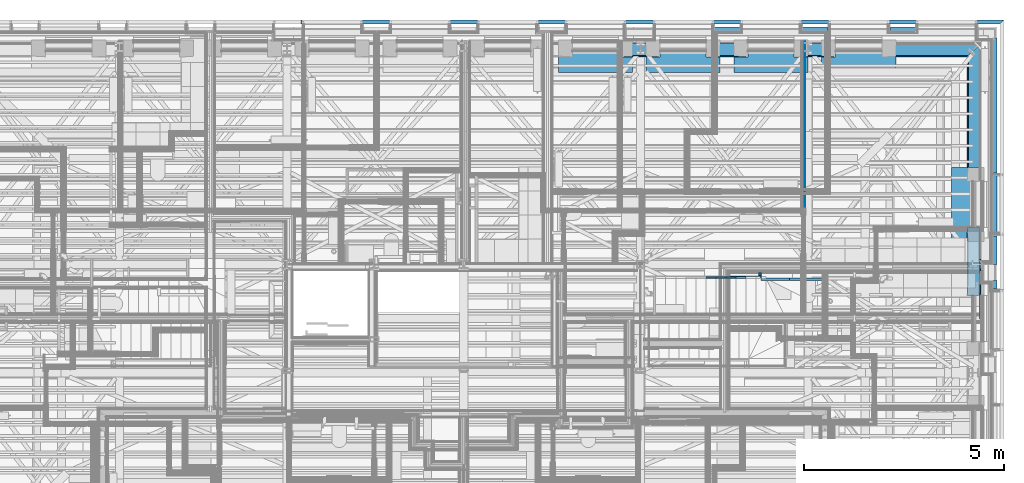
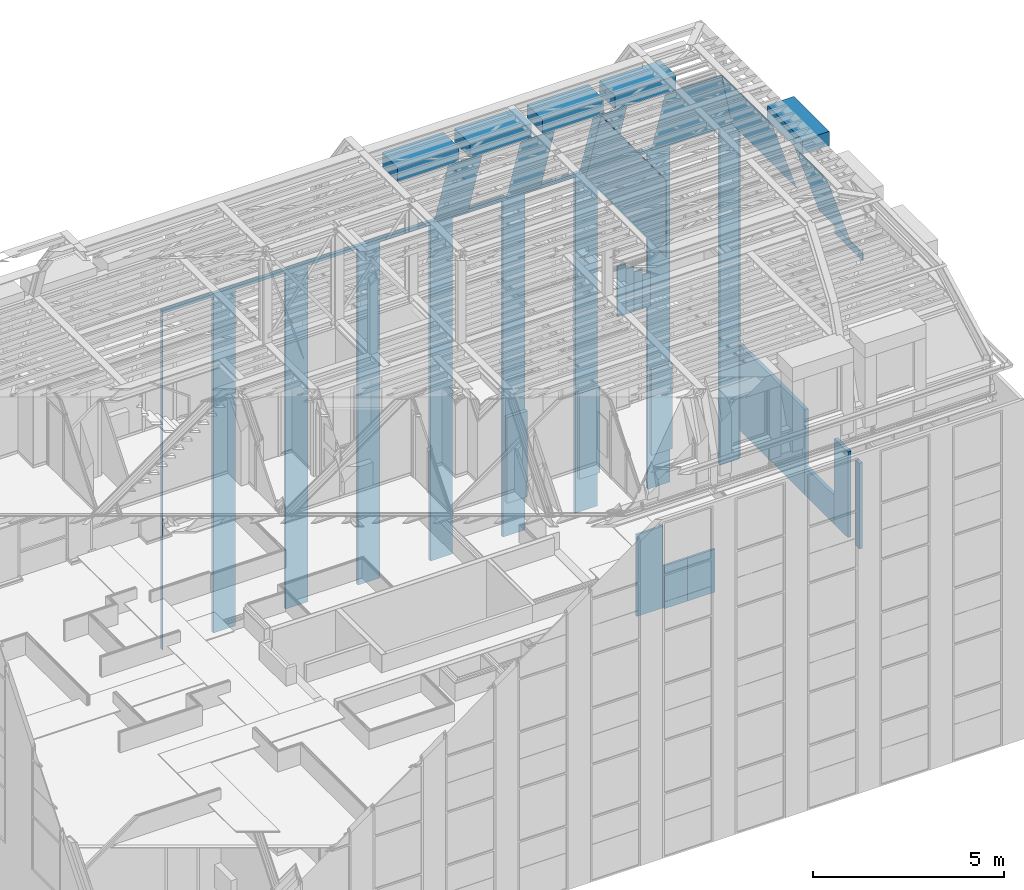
# One storey, part 21 of 183: 35 walls, 8 openings.
"""IFC2X3 building model written with IfcOpenShell, lengths in metres."""

from ifc_helpers import new_model, entity, si_unit, converted_unit, derived_unit, money_unit, direction, frame, frame_2d, origin_with_axes, place, context, subcontext, project, spatial, polyline, rectangle, outline, extrude, clip, halfspace, material, layer, layer_set, layer_usage, type_object, element, save


model = new_model("IFC2X3")

# Units and contexts
model_context = context("Model", 3, precision=1e-05, world=origin_with_axes(), true_north=direction((0.0, 1.0)))
body_context = subcontext(model_context, "Body", "Model", "MODEL_VIEW", scale=1.0)
ifc_project = project(units=[si_unit("LENGTHUNIT", "METRE"), si_unit("AREAUNIT", "SQUARE_METRE"), si_unit("VOLUMEUNIT", "CUBIC_METRE"), si_unit("ABSORBEDDOSEUNIT", "GRAY"), si_unit("AMOUNTOFSUBSTANCEUNIT", "MOLE"), si_unit("DOSEEQUIVALENTUNIT", "SIEVERT"), si_unit("ELECTRICCAPACITANCEUNIT", "FARAD"), si_unit("ELECTRICCHARGEUNIT", "COULOMB"), si_unit("ELECTRICCONDUCTANCEUNIT", "SIEMENS"), si_unit("ELECTRICCURRENTUNIT", "AMPERE"), si_unit("ELECTRICRESISTANCEUNIT", "OHM"), si_unit("ELECTRICVOLTAGEUNIT", "VOLT"), si_unit("ENERGYUNIT", "JOULE"), si_unit("FORCEUNIT", "NEWTON"), si_unit("FREQUENCYUNIT", "HERTZ"), si_unit("ILLUMINANCEUNIT", "LUX"), si_unit("INDUCTANCEUNIT", "HENRY"), si_unit("LUMINOUSFLUXUNIT", "LUMEN"), si_unit("LUMINOUSINTENSITYUNIT", "CANDELA"), si_unit("MAGNETICFLUXDENSITYUNIT", "TESLA"), si_unit("MAGNETICFLUXUNIT", "WEBER"), si_unit("MASSUNIT", "GRAM"), converted_unit("PLANEANGLEUNIT", "degree", entity("IfcReal", 0.0174532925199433), si_unit("PLANEANGLEUNIT", "RADIAN"), dimensions=[0, 0, 0, 0, 0, 0, 0]), si_unit("POWERUNIT", "WATT"), si_unit("PRESSUREUNIT", "PASCAL"), si_unit("RADIOACTIVITYUNIT", "BECQUEREL"), si_unit("SOLIDANGLEUNIT", "STERADIAN"), si_unit("THERMODYNAMICTEMPERATUREUNIT", "KELVIN"), si_unit("TIMEUNIT", "SECOND"), derived_unit("ACCELERATIONUNIT", [(si_unit("LENGTHUNIT", "METRE"), 1), (si_unit("TIMEUNIT", "SECOND"), -2)]), derived_unit("ANGULARVELOCITYUNIT", [(converted_unit("PLANEANGLEUNIT", "degree", entity("IfcReal", 0.0174532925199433), si_unit("PLANEANGLEUNIT", "RADIAN"), dimensions=[0, 0, 0, 0, 0, 0, 0]), 1), (si_unit("TIMEUNIT", "SECOND"), -1)]), derived_unit("CURVATUREUNIT", [(converted_unit("PLANEANGLEUNIT", "degree", entity("IfcReal", 0.0174532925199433), si_unit("PLANEANGLEUNIT", "RADIAN"), dimensions=[0, 0, 0, 0, 0, 0, 0]), 1), (si_unit("LENGTHUNIT", "METRE"), -1)]), derived_unit("DYNAMICVISCOSITYUNIT", [(si_unit("PRESSUREUNIT", "PASCAL"), 1), (si_unit("TIMEUNIT", "SECOND"), 1)]), derived_unit("HEATFLUXDENSITYUNIT", [(si_unit("POWERUNIT", "WATT"), 1), (si_unit("LENGTHUNIT", "METRE"), -2)]), derived_unit("HEATINGVALUEUNIT", [(si_unit("ENERGYUNIT", "JOULE"), 1), (si_unit("MASSUNIT", "GRAM"), -1)]), derived_unit("INTEGERCOUNTRATEUNIT", [(si_unit("TIMEUNIT", "SECOND"), -1)]), derived_unit("IONCONCENTRATIONUNIT", [(si_unit("MASSUNIT", "GRAM"), 1), (si_unit("VOLUMEUNIT", "CUBIC_METRE"), -1)]), derived_unit("ISOTHERMALMOISTURECAPACITYUNIT", [(si_unit("VOLUMEUNIT", "CUBIC_METRE"), 1), (si_unit("MASSUNIT", "GRAM"), -1)]), derived_unit("KINEMATICVISCOSITYUNIT", [(si_unit("AREAUNIT", "SQUARE_METRE"), 1), (si_unit("TIMEUNIT", "SECOND"), -1)]), derived_unit("LINEARFORCEUNIT", [(si_unit("FORCEUNIT", "NEWTON"), 1), (si_unit("LENGTHUNIT", "METRE"), -1)]), derived_unit("LINEARMOMENTUNIT", [(si_unit("FORCEUNIT", "NEWTON"), 1), (si_unit("LENGTHUNIT", "METRE"), -1)]), derived_unit("LINEARSTIFFNESSUNIT", [(si_unit("FORCEUNIT", "NEWTON"), 1), (si_unit("LENGTHUNIT", "METRE"), -1)]), derived_unit("LINEARVELOCITYUNIT", [(si_unit("LENGTHUNIT", "METRE"), 1), (si_unit("TIMEUNIT", "SECOND"), -1)]), derived_unit("LUMINOUSINTENSITYDISTRIBUTIONUNIT", [(si_unit("LUMINOUSINTENSITYUNIT", "CANDELA"), 1), (si_unit("LUMINOUSFLUXUNIT", "LUMEN"), -1)]), derived_unit("MASSDENSITYUNIT", [(si_unit("MASSUNIT", "GRAM"), 1), (si_unit("VOLUMEUNIT", "CUBIC_METRE"), -1)]), derived_unit("MASSFLOWRATEUNIT", [(si_unit("MASSUNIT", "GRAM"), 1), (si_unit("TIMEUNIT", "SECOND"), -1)]), derived_unit("MASSPERLENGTHUNIT", [(si_unit("MASSUNIT", "GRAM"), 1), (si_unit("LENGTHUNIT", "METRE"), -1)]), derived_unit("MODULUSOFELASTICITYUNIT", [(si_unit("FORCEUNIT", "NEWTON"), 1), (si_unit("AREAUNIT", "SQUARE_METRE"), -1)]), derived_unit("MODULUSOFLINEARSUBGRADEREACTIONUNIT", [(si_unit("FORCEUNIT", "NEWTON"), 1), (si_unit("LENGTHUNIT", "METRE"), -2)]), derived_unit("MODULUSOFROTATIONALSUBGRADEREACTIONUNIT", [(si_unit("FORCEUNIT", "NEWTON"), 1), (si_unit("LENGTHUNIT", "METRE"), 1)]), derived_unit("MODULUSOFSUBGRADEREACTIONUNIT", [(si_unit("FORCEUNIT", "NEWTON"), 1), (si_unit("VOLUMEUNIT", "CUBIC_METRE"), -1)]), derived_unit("MOISTUREDIFFUSIVITYUNIT", [(si_unit("VOLUMEUNIT", "CUBIC_METRE"), 1), (si_unit("TIMEUNIT", "SECOND"), -1)]), derived_unit("MOLECULARWEIGHTUNIT", [(si_unit("MASSUNIT", "GRAM"), 1), (si_unit("AMOUNTOFSUBSTANCEUNIT", "MOLE"), -1)]), derived_unit("PLANARFORCEUNIT", [(si_unit("FORCEUNIT", "NEWTON"), 1), (si_unit("LENGTHUNIT", "METRE"), -2)]), derived_unit("ROTATIONALFREQUENCYUNIT", [(si_unit("TIMEUNIT", "SECOND"), -1)]), derived_unit("ROTATIONALMASSUNIT", [(si_unit("MASSUNIT", "GRAM"), 1), (si_unit("LENGTHUNIT", "METRE"), 2)]), derived_unit("ROTATIONALSTIFFNESSUNIT", [(si_unit("FORCEUNIT", "NEWTON"), 1), (si_unit("LENGTHUNIT", "METRE"), 1), (converted_unit("PLANEANGLEUNIT", "degree", entity("IfcReal", 0.0174532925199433), si_unit("PLANEANGLEUNIT", "RADIAN"), dimensions=[0, 0, 0, 0, 0, 0, 0]), -1)]), derived_unit("SECTIONAREAINTEGRALUNIT", [(si_unit("LENGTHUNIT", "METRE"), 5)]), derived_unit("SECTIONMODULUSUNIT", [(si_unit("LENGTHUNIT", "METRE"), 3)]), derived_unit("SHEARMODULUSUNIT", [(si_unit("FORCEUNIT", "NEWTON"), 1), (si_unit("AREAUNIT", "SQUARE_METRE"), -1)]), derived_unit("SOUNDPOWERUNIT", [(si_unit("ENERGYUNIT", "JOULE"), 1), (si_unit("TIMEUNIT", "SECOND"), -1)]), derived_unit("SPECIFICHEATCAPACITYUNIT", [(si_unit("FORCEUNIT", "NEWTON"), 1), (si_unit("MASSUNIT", "GRAM"), -1), (si_unit("THERMODYNAMICTEMPERATUREUNIT", "KELVIN"), -1)]), derived_unit("TEMPERATUREGRADIENTUNIT", [(si_unit("THERMODYNAMICTEMPERATUREUNIT", "KELVIN"), 1), (si_unit("LENGTHUNIT", "METRE"), -1)]), derived_unit("THERMALADMITTANCEUNIT", [(si_unit("POWERUNIT", "WATT"), 1), (si_unit("AREAUNIT", "SQUARE_METRE"), -1), (si_unit("THERMODYNAMICTEMPERATUREUNIT", "KELVIN"), -1)]), derived_unit("THERMALCONDUCTANCEUNIT", [(si_unit("POWERUNIT", "WATT"), 1), (si_unit("LENGTHUNIT", "METRE"), -1), (si_unit("THERMODYNAMICTEMPERATUREUNIT", "KELVIN"), -1)]), derived_unit("THERMALEXPANSIONCOEFFICIENTUNIT", [(si_unit("THERMODYNAMICTEMPERATUREUNIT", "KELVIN"), -1)]), derived_unit("THERMALRESISTANCEUNIT", [(si_unit("AREAUNIT", "SQUARE_METRE"), 1), (si_unit("POWERUNIT", "WATT"), -1)]), derived_unit("THERMALTRANSMITTANCEUNIT", [(si_unit("POWERUNIT", "WATT"), 1), (si_unit("AREAUNIT", "SQUARE_METRE"), -1), (si_unit("THERMODYNAMICTEMPERATUREUNIT", "KELVIN"), -1)]), derived_unit("TORQUEUNIT", [(si_unit("FORCEUNIT", "NEWTON"), 1), (si_unit("LENGTHUNIT", "METRE"), 1)]), derived_unit("VAPORPERMEABILITYUNIT", [(si_unit("MASSUNIT", "GRAM"), 1), (si_unit("TIMEUNIT", "SECOND"), -1)]), derived_unit("VOLUMETRICFLOWRATEUNIT", [(si_unit("VOLUMEUNIT", "CUBIC_METRE"), 1), (si_unit("TIMEUNIT", "SECOND"), -1)]), derived_unit("WARPINGCONSTANTUNIT", [(si_unit("LENGTHUNIT", "METRE"), 6)]), derived_unit("WARPINGMOMENTUNIT", [(si_unit("FORCEUNIT", "NEWTON"), 1), (si_unit("LENGTHUNIT", "METRE"), 2)]), money_unit("GBP")], contexts=[model_context])

# Site, building, storey
site_placement = place(None, origin_with_axes())
site = spatial("IfcSite", under=ifc_project, at=site_placement, Name="Site", CompositionType="ELEMENT")
building_placement = place(site_placement, origin_with_axes())
building = spatial("IfcBuilding", under=site, at=building_placement, Name="Building01", CompositionType="ELEMENT")
storey_placement = place(building_placement, frame((0.0, 0.0, 5.15), z_axis=(0.0, 0.0, 1.0), x_axis=(1.0, 0.0, 0.0)))
storey = spatial("IfcBuildingStorey", under=building, at=storey_placement, Name="1F", CompositionType="ELEMENT", Elevation=5.15)

# Wall, openings
ifc_material_1 = material(Name="A_BSUK_WallsExternal_Brick")
ifc_layer_1 = layer(ifc_material_1, 0.1, ventilated=False)
ifc_layer_set_1 = layer_set([ifc_layer_1])
ifc_layer_usage_1 = layer_usage(ifc_layer_set_1, "AXIS2", "POSITIVE", 0.0)
wall_type_1 = type_object("IfcWallType", Name="A-Walls-ExternalBrick", PredefinedType="NOTDEFINED")
wall_1_placement = place(storey_placement, frame((9.443277, 14.9, -1.18), z_axis=(0.0, 0.0, 1.0), x_axis=(1.0, 0.0, 0.0)))
wall_1 = element("IfcWallStandardCase", 1, at=wall_1_placement, inside=storey, type_object=wall_type_1, material=ifc_layer_usage_1, Name="A-Walls-ExternalBrick", ObjectType="A-Walls-ExternalBrick", context=body_context, shape_type="SweptSolid", body=[
    extrude(outline(polyline([(17.536723, 0.0), (0.0, 0.0), (0.0, -0.1), (17.436723, -0.1), (17.536723, 0.0)])), origin_with_axes(), (0.0, 0.0, 1.0), 10.850238),
])
opening_1_placement = place(wall_1_placement, frame((13.156723, -0.1, 0.0), z_axis=(0.0, 0.0, 1.0), x_axis=(1.0, 0.0, 0.0)))
element("IfcOpeningElement", 2, at=opening_1_placement, cuts=wall_1, Name="Opening", ObjectType="Opening", context=body_context, shape_type="SweptSolid", body=[
    extrude(rectangle(XDim=1.52, YDim=10.75, at=frame_2d((-0.76, 5.375), x_axis=(-1.0, 0.0))), frame((0.0, 0.0, 0.0), z_axis=(0.0, 1.0, 0.0), x_axis=(-1.0, 0.0, 0.0)), (0.0, 0.0, 1.0), 0.1),
])
opening_2_placement = place(wall_1_placement, frame((10.966723, -0.1, 0.0), z_axis=(0.0, 0.0, 1.0), x_axis=(1.0, 0.0, 0.0)))
element("IfcOpeningElement", 3, at=opening_2_placement, cuts=wall_1, Name="Opening", ObjectType="Opening", context=body_context, shape_type="SweptSolid", body=[
    extrude(rectangle(XDim=1.52, YDim=10.75, at=frame_2d((-0.76, 5.375), x_axis=(-1.0, 0.0))), frame((0.0, 0.0, 0.0), z_axis=(0.0, 1.0, 0.0), x_axis=(-1.0, 0.0, 0.0)), (0.0, 0.0, 1.0), 0.1),
])
opening_3_placement = place(wall_1_placement, frame((8.776723, -0.1, 0.0), z_axis=(0.0, 0.0, 1.0), x_axis=(1.0, 0.0, 0.0)))
element("IfcOpeningElement", 4, at=opening_3_placement, cuts=wall_1, Name="Opening", ObjectType="Opening", context=body_context, shape_type="SweptSolid", body=[
    extrude(rectangle(XDim=1.52, YDim=10.75, at=frame_2d((-0.76, 5.375), x_axis=(-1.0, 0.0))), frame((0.0, 0.0, 0.0), z_axis=(0.0, 1.0, 0.0), x_axis=(-1.0, 0.0, 0.0)), (0.0, 0.0, 1.0), 0.1),
])
opening_4_placement = place(wall_1_placement, frame((6.586723, -0.1, 0.0), z_axis=(0.0, 0.0, 1.0), x_axis=(1.0, 0.0, 0.0)))
element("IfcOpeningElement", 5, at=opening_4_placement, cuts=wall_1, Name="Opening", ObjectType="Opening", context=body_context, shape_type="SweptSolid", body=[
    extrude(rectangle(XDim=1.52, YDim=10.75, at=frame_2d((-0.76, 5.375), x_axis=(-1.0, 0.0))), frame((0.0, 0.0, 0.0), z_axis=(0.0, 1.0, 0.0), x_axis=(-1.0, 0.0, 0.0)), (0.0, 0.0, 1.0), 0.1),
])
opening_5_placement = place(wall_1_placement, frame((4.396723, -0.1, 0.0), z_axis=(0.0, 0.0, 1.0), x_axis=(1.0, 0.0, 0.0)))
element("IfcOpeningElement", 6, at=opening_5_placement, cuts=wall_1, Name="Opening", ObjectType="Opening", context=body_context, shape_type="SweptSolid", body=[
    extrude(rectangle(XDim=1.52, YDim=10.75, at=frame_2d((-0.76, 5.375), x_axis=(-1.0, 0.0))), frame((0.0, 0.0, 0.0), z_axis=(0.0, 1.0, 0.0), x_axis=(-1.0, 0.0, 0.0)), (0.0, 0.0, 1.0), 0.1),
])
opening_6_placement = place(wall_1_placement, frame((2.206723, -0.1, 0.0), z_axis=(0.0, 0.0, 1.0), x_axis=(1.0, 0.0, 0.0)))
element("IfcOpeningElement", 7, at=opening_6_placement, cuts=wall_1, Name="Opening", ObjectType="Opening", context=body_context, shape_type="SweptSolid", body=[
    extrude(rectangle(XDim=1.52, YDim=10.75, at=frame_2d((-0.76, 5.375), x_axis=(-1.0, 0.0))), frame((0.0, 0.0, 0.0), z_axis=(0.0, 1.0, 0.0), x_axis=(-1.0, 0.0, 0.0)), (0.0, 0.0, 1.0), 0.1),
])
opening_7_placement = place(wall_1_placement, frame((0.016723, -0.1, 0.0), z_axis=(0.0, 0.0, 1.0), x_axis=(1.0, 0.0, 0.0)))
element("IfcOpeningElement", 8, at=opening_7_placement, cuts=wall_1, Name="Opening", ObjectType="Opening", context=body_context, shape_type="SweptSolid", body=[
    extrude(rectangle(XDim=1.52, YDim=10.75, at=frame_2d((-0.76, 5.375), x_axis=(-1.0, 0.0))), frame((0.0, 0.0, 0.0), z_axis=(0.0, 1.0, 0.0), x_axis=(-1.0, 0.0, 0.0)), (0.0, 0.0, 1.0), 0.1),
])
opening_8_placement = place(wall_1_placement, frame((15.346723, -0.1, 0.0), z_axis=(0.0, 0.0, 1.0), x_axis=(1.0, 0.0, 0.0)))
element("IfcOpeningElement", 9, at=opening_8_placement, cuts=wall_1, Name="Opening", ObjectType="Opening", context=body_context, shape_type="SweptSolid", body=[
    extrude(rectangle(XDim=1.52, YDim=10.75, at=frame_2d((-0.76, 5.375), x_axis=(-1.0, 0.0))), frame((0.0, 0.0, 0.0), z_axis=(0.0, 1.0, 0.0), x_axis=(-1.0, 0.0, 0.0)), (0.0, 0.0, 1.0), 0.1),
])

# Walls
ifc_material_2 = material(Name="A_BSUK_WallsExternal_Block")
ifc_layer_2 = layer(ifc_material_2, 0.1, ventilated=False)
ifc_layer_set_2 = layer_set([ifc_layer_2])
ifc_layer_usage_2 = layer_usage(ifc_layer_set_2, "AXIS2", "POSITIVE", 0.0)
wall_type_2 = type_object("IfcWallType", Name="A-Walls-ExternalBlock", PredefinedType="NOTDEFINED")
for number, where, z_axis, x_axis, name in (
    (10, (19.763, 14.63, 0.0), (0.0, 0.0, 1.0), (1.0, 0.0, 0.0), "A-Walls-ExternalBlock"),
    (11, (21.953, 14.63, 0.0), (0.0, 0.0, 1.0), (1.0, 0.0, 0.0), "A-Walls-ExternalBlock"),
    (12, (24.143, 14.63, 0.0), (0.0, 0.0, 1.0), (1.0, 0.0, 0.0), "A-Walls-ExternalBlock"),
):
    element("IfcWallStandardCase", number, at=place(storey_placement, frame(where, z_axis=z_axis, x_axis=x_axis)), inside=storey, type_object=wall_type_2, material=ifc_layer_usage_2, Name=name, ObjectType="A-Walls-ExternalBlock", context=body_context, shape_type="SweptSolid", body=[
        extrude(rectangle(XDim=0.624, YDim=0.1, at=frame_2d((0.312, 0.05), x_axis=(-1.0, 0.0))), origin_with_axes(), (0.0, 0.0, 1.0), 2.74),
    ])
wall_2_placement = place(storey_placement, frame((26.71, 9.51418, 0.0), z_axis=(0.0, 0.0, 1.0), x_axis=(0.0, -1.0, 0.0)))
element("IfcWallStandardCase", 13, at=wall_2_placement, inside=storey, type_object=wall_type_2, material=ifc_layer_usage_2, Name="A-Walls-ExternalBlock", ObjectType="A-Walls-ExternalBlock", context=body_context, shape_type="SweptSolid", body=[
    extrude(rectangle(XDim=0.1, YDim=0.71418, at=frame_2d((0.35709, 0.05), x_axis=(0.0, -1.0))), origin_with_axes(), (0.0, 0.0, 1.0), 2.74),
])
wall_3_placement = place(storey_placement, frame((26.71, 8.4, 0.0), z_axis=(0.0, 0.0, 1.0), x_axis=(0.0, -1.0, 0.0)))
element("IfcWallStandardCase", 14, at=wall_3_placement, inside=storey, type_object=wall_type_2, material=ifc_layer_usage_2, Name="A-Walls-ExternalBlock", ObjectType="A-Walls-ExternalBlock", context=body_context, shape_type="SweptSolid", body=[
    extrude(rectangle(XDim=0.199674, YDim=0.1, at=frame_2d((0.099837, 0.05), x_axis=(-1.0, 0.0))), origin_with_axes(), (0.0, 0.0, 1.0), 2.74),
])
wall_4_placement = place(storey_placement, frame((26.71, 14.45, 0.0), z_axis=(0.0, 0.0, 1.0), x_axis=(0.0, -1.0, 0.0)))
element("IfcWallStandardCase", 15, at=wall_4_placement, inside=storey, type_object=wall_type_2, material=ifc_layer_usage_2, Name="A-Walls-ExternalBlock", ObjectType="A-Walls-ExternalBlock", context=body_context, shape_type="SweptSolid", body=[
    extrude(rectangle(XDim=3.40582, YDim=0.1, at=frame_2d((1.70291, 0.05), x_axis=(-1.0, 0.0))), origin_with_axes(), (0.0, 0.0, 1.0), 2.74),
])
wall_5_placement = place(storey_placement, frame((26.71, 11.08018, 0.0), z_axis=(0.0, 0.0, 1.0), x_axis=(0.0, -1.0, 0.0)))
element("IfcWallStandardCase", 16, at=wall_5_placement, inside=storey, type_object=wall_type_2, material=ifc_layer_usage_2, Name="A-Walls-ExternalBlock", ObjectType="A-Walls-ExternalBlock", context=body_context, shape_type="SweptSolid", body=[
    extrude(rectangle(XDim=1.566, YDim=0.1, at=frame_2d((0.783, 0.05), x_axis=(1.0, 0.0))), origin_with_axes(), (0.0, 0.0, 1.0), 0.915),
])
ifc_material_3 = material(Name="A_BSUK_WallsInternal")
ifc_layer_3 = layer(ifc_material_3, 0.025, ventilated=False)
ifc_layer_set_3 = layer_set([ifc_layer_3])
ifc_layer_usage_3 = layer_usage(ifc_layer_set_3, "AXIS2", "POSITIVE", 0.0)
wall_type_3 = type_object("IfcWallType", Name="A-Walls-Internal", PredefinedType="NOTDEFINED")
wall_6_placement = place(storey_placement, frame((26.4012, 7.45, 9.78), z_axis=(0.0, 0.0, 1.0), x_axis=(0.0, 1.0, 0.0)))
element("IfcWallStandardCase", 17, at=wall_6_placement, inside=storey, type_object=wall_type_3, material=ifc_layer_usage_3, Name="7C", ObjectType="A-Walls-Internal", context=body_context, shape_type="SweptSolid", body=[
    extrude(rectangle(XDim=1.482559, YDim=0.025, at=frame_2d((0.741279, 0.0125), x_axis=(-1.0, 0.0))), origin_with_axes(), (0.0, 0.0, 1.0), 0.25),
])
ifc_layer_4 = layer(ifc_material_3, 0.05, ventilated=False)
ifc_layer_set_4 = layer_set([ifc_layer_4])
ifc_layer_usage_4 = layer_usage(ifc_layer_set_4, "AXIS2", "POSITIVE", 0.0)
wall_7_placement = place(storey_placement, frame((19.539976, 8.449915, 9.78), z_axis=(0.0, 0.0, 1.0), x_axis=(1.0, 0.0, 0.0)))
element("IfcWallStandardCase", 18, at=wall_7_placement, inside=storey, type_object=wall_type_3, material=ifc_layer_usage_4, Name="A-Walls-Internal", ObjectType="A-Walls-Internal", context=body_context, shape_type="SweptSolid", body=[
    extrude(rectangle(XDim=0.25, YDim=0.05, at=frame_2d((0.125, 0.025), x_axis=(1.0, 0.0))), origin_with_axes(), (0.0, 0.0, 1.0), 1.62),
])
wall_8_placement = place(storey_placement, frame((19.789976, 8.449915, 9.78), z_axis=(0.0, 0.0, 1.0), x_axis=(1.0, 0.0, 0.0)))
element("IfcWallStandardCase", 19, at=wall_8_placement, inside=storey, type_object=wall_type_3, material=ifc_layer_usage_4, Name="A-Walls-Internal", ObjectType="A-Walls-Internal", context=body_context, shape_type="SweptSolid", body=[
    extrude(rectangle(XDim=0.25, YDim=0.05, at=frame_2d((0.125, 0.025), x_axis=(1.0, 0.0))), origin_with_axes(), (0.0, 0.0, 1.0), 1.44),
])
wall_9_placement = place(storey_placement, frame((20.039976, 8.449915, 9.78), z_axis=(0.0, 0.0, 1.0), x_axis=(1.0, 0.0, 0.0)))
element("IfcWallStandardCase", 20, at=wall_9_placement, inside=storey, type_object=wall_type_3, material=ifc_layer_usage_4, Name="A-Walls-Internal", ObjectType="A-Walls-Internal", context=body_context, shape_type="SweptSolid", body=[
    extrude(rectangle(XDim=0.25, YDim=0.05, at=frame_2d((0.125, 0.025), x_axis=(1.0, 0.0))), origin_with_axes(), (0.0, 0.0, 1.0), 1.26),
])
wall_10_placement = place(storey_placement, frame((20.289976, 8.449915, 9.78), z_axis=(0.0, 0.0, 1.0), x_axis=(1.0, 0.0, 0.0)))
element("IfcWallStandardCase", 21, at=wall_10_placement, inside=storey, type_object=wall_type_3, material=ifc_layer_usage_4, Name="A-Walls-Internal", ObjectType="A-Walls-Internal", context=body_context, shape_type="SweptSolid", body=[
    extrude(rectangle(XDim=0.25, YDim=0.05, at=frame_2d((0.125, 0.025), x_axis=(1.0, 0.0))), origin_with_axes(), (0.0, 0.0, 1.0), 1.08),
])
ifc_material_4 = material(Name="A_BSUK_OpeningsClearance")
ifc_layer_5 = layer(ifc_material_4, 0.05, ventilated=False)
ifc_material_5 = material(Name="A_BSUK_Walls_Timber")
ifc_layer_6 = layer(ifc_material_5, 0.015, ventilated=False)
ifc_layer_set_5 = layer_set([ifc_layer_5, ifc_layer_6])
ifc_layer_usage_5 = layer_usage(ifc_layer_set_5, "AXIS2", "POSITIVE", 0.0)
wall_type_4 = type_object("IfcWallType", Name="SHE_A-Walls_Type05c_PreWallShell_65mm", PredefinedType="NOTDEFINED")
wall_11_placement = place(storey_placement, frame((20.907661, 8.515, 0.0), z_axis=(0.0, 0.0, 1.0), x_axis=(-1.0, 0.0, 0.0)))
element("IfcWallStandardCase", 22, at=wall_11_placement, inside=storey, type_object=wall_type_4, material=ifc_layer_usage_5, Name="5C", ObjectType="SHE_A-Walls_Type05c_PreWallShell_65mm", context=body_context, shape_type="SweptSolid", body=[
    extrude(outline(polyline([(0.785, 0.065), (-0.015, 0.065), (-0.015, 0.05), (0.0, 0.05), (0.0, 0.0), (0.785, 0.0), (0.785, 0.065)])), origin_with_axes(), (0.0, 0.0, 1.0), 2.615),
])
wall_12_placement = place(storey_placement, frame((20.857661, 8.595, 0.0), z_axis=(0.0, 0.0, 1.0), x_axis=(0.0, -1.0, 0.0)))
element("IfcWallStandardCase", 23, at=wall_12_placement, inside=storey, type_object=wall_type_4, material=ifc_layer_usage_5, Name="5C", ObjectType="SHE_A-Walls_Type05c_PreWallShell_65mm", context=body_context, shape_type="SweptSolid", body=[
    extrude(outline(polyline([(0.08, 0.05), (0.13, 0.05), (0.13, 0.065), (0.0, 0.065), (0.0, 0.0), (0.08, 0.0), (0.08, 0.05)])), origin_with_axes(), (0.0, 0.0, 1.0), 2.615),
])
wall_13_placement = place(storey_placement, frame((21.626659, 8.460003, 0.0), z_axis=(0.0, 0.0, 1.0), x_axis=(-1.0, 0.0, 0.0)))
element("IfcWallStandardCase", 24, at=wall_13_placement, inside=storey, type_object=wall_type_4, material=ifc_layer_usage_5, Name="5C", ObjectType="SHE_A-Walls_Type05c_PreWallShell_65mm", context=body_context, shape_type="SweptSolid", body=[
    extrude(rectangle(XDim=0.703998, YDim=0.065, at=frame_2d((0.351999, 0.0325), x_axis=(-1.0, 0.0))), origin_with_axes(), (0.0, 0.0, 1.0), 1.375),
])
wall_14_placement = place(storey_placement, frame((22.461661, 8.46, 0.0), z_axis=(0.0, 0.0, 1.0), x_axis=(-1.0, 0.0, 0.0)))
element("IfcWallStandardCase", 25, at=wall_14_placement, inside=storey, type_object=wall_type_4, material=ifc_layer_usage_5, Name="5C", ObjectType="SHE_A-Walls_Type05c_PreWallShell_65mm", context=body_context, shape_type="SweptSolid", body=[
    extrude(rectangle(XDim=0.835002, YDim=0.065, at=frame_2d((0.417501, 0.0325), x_axis=(1.0, 0.0))), origin_with_axes(), (0.0, 0.0, 1.0), 1.375),
])
ifc_material_6 = material(Name="A_BSUK_Roofs")
wall_type_5 = type_object("IfcWallType", Name="A-Walls-ExternalBlock", PredefinedType="NOTDEFINED")
for number, where, z_axis, x_axis, name in (
    (26, (15.860024, 13.590035, 12.729998), (1.0, 0.0, 0.0), (0.0, -1.0, 0.0), "7C"),
    (27, (20.240024, 13.590035, 12.729998), (1.0, 0.0, 0.0), (0.0, -1.0, 0.0), "7C"),
    (28, (22.430024, 13.590035, 12.729998), (1.0, 0.0, 0.0), (0.0, -1.0, 0.0), "7C"),
    (29, (18.050024, 13.590035, 12.729998), (1.0, 0.0, 0.0), (0.0, -1.0, 0.0), "7C"),
    (30, (25.670061, 11.224891, 12.729998), (0.0, -1.0, 0.0), (-1.0, 0.0, 0.0), "7C"),
):
    element("IfcWall", number, at=place(storey_placement, frame(where, z_axis=z_axis, x_axis=x_axis)), inside=storey, type_object=wall_type_5, material=ifc_material_6, Name=name, ObjectType="A-Walls-ExternalBlock", context=body_context, shape_type="SweptSolid", body=[
        extrude(rectangle(XDim=0.81, YDim=0.45, at=frame_2d((-0.405, 0.225), x_axis=(-1.0, 0.0))), origin_with_axes(), (0.0, 0.0, 1.0), 1.849951),
    ])
ifc_material_7 = material(Name="A_BSUK_WallInternal_Finishes_Plasterboard")
ifc_layer_7 = layer(ifc_material_7, 0.015, ventilated=False)
ifc_layer_set_6 = layer_set([ifc_layer_7])
ifc_layer_usage_6 = layer_usage(ifc_layer_set_6, "AXIS2", "POSITIVE", 0.0)
wall_type_6 = type_object("IfcWallType", Name="default", PredefinedType="NOTDEFINED")
wall_15_placement = place(storey_placement, frame((22.004976, 10.179939, 9.78), z_axis=(0.0, 0.0, 1.0), x_axis=(0.0, 1.0, 0.0)))
element("IfcWallStandardCase", 31, at=wall_15_placement, inside=storey, type_object=wall_type_6, material=ifc_layer_usage_6, Name="default", ObjectType="default", context=body_context, shape_type="Clipping", body=[
    clip(extrude(rectangle(XDim=4.206719, YDim=0.015, at=frame_2d((2.103359, -0.0075), x_axis=(-1.0, 0.0))), origin_with_axes(), (0.0, 0.0, 1.0), 2.468), halfspace(frame((3.805013, 0.0, 1.236324), z_axis=(-0.95105652, 0.0, -0.30901699), x_axis=(0.0, -1.0, 0.0)), True)),
])
wall_type_7 = type_object("IfcWallType", Name="A-Walls-Internal", PredefinedType="NOTDEFINED")
for number, where, z_axis, x_axis, name in (
    (32, (17.609976, 14.3212, 10.03), (0.0, -0.30901699, 0.95105652), (1.0, 0.0, 0.0), "7C"),
    (33, (19.799976, 14.3212, 10.03), (0.0, -0.30901699, 0.95105652), (1.0, 0.0, 0.0), "7C"),
    (34, (21.989976, 14.3212, 10.03), (0.0, -0.30901699, 0.95105652), (1.0, 0.0, 0.0), "7C"),
):
    element("IfcWall", number, at=place(storey_placement, frame(where, z_axis=z_axis, x_axis=x_axis)), inside=storey, type_object=wall_type_7, material=ifc_material_3, Name=name, ObjectType="A-Walls-Internal", context=body_context, shape_type="SweptSolid", body=[
        extrude(rectangle(XDim=0.540049, YDim=0.015, at=frame_2d((0.270024, -0.0075), x_axis=(-1.0, 0.0))), origin_with_axes(), (0.0, 0.0, 1.0), 2.373987),
    ])
wall_16_placement = place(storey_placement, frame((26.4012, 11.124915, 10.03), z_axis=(-0.30901699, 0.0, 0.95105652), x_axis=(0.0, 1.0, 0.0)))
element("IfcWall", 35, at=wall_16_placement, inside=storey, type_object=wall_type_7, material=ifc_material_3, Name="7C", ObjectType="A-Walls-Internal", context=body_context, shape_type="Clipping", body=[
    clip(extrude(outline(polyline([(3.182019, 0.015), (0.0, 0.015), (0.0, 0.0), (3.196285, 0.0), (3.182019, 0.015)])), origin_with_axes(), (0.0, 0.0, 1.0), 2.373987), halfspace(frame((1.598142, 1.519924, 0.493853), z_axis=(-0.70710678, -0.67249851, -0.21850801), x_axis=(0.68915176, -0.72461704, 0.0)), True)),
])
wall_17_placement = place(storey_placement, frame((26.4012, 14.3212, 10.03), z_axis=(0.0, -0.30901699, 0.95105652), x_axis=(-1.0, 0.0, 0.0)))
element("IfcWall", 36, at=wall_17_placement, inside=storey, type_object=wall_type_7, material=ifc_material_3, Name="7C", ObjectType="A-Walls-Internal", context=body_context, shape_type="Clipping", body=[
    clip(extrude(outline(polyline([(2.221224, 0.015), (0.014266, 0.015), (0.0, 0.0), (2.221224, 0.0), (2.221224, 0.015)])), origin_with_axes(), (0.0, 0.0, 1.0), 2.373987), halfspace(frame((0.0, 0.0, 0.0), z_axis=(0.70710678, -0.67249851, -0.21850801), x_axis=(0.68915176, 0.72461704, 0.0)), True)),
])
wall_18_placement = place(storey_placement, frame((26.4012, 9.474964, 10.03), z_axis=(-0.30901699, 0.0, 0.95105652), x_axis=(0.0, -1.0, 0.0)))
element("IfcWall", 37, at=wall_18_placement, inside=storey, type_object=wall_type_7, material=ifc_material_3, Name="7C", ObjectType="A-Walls-Internal", context=body_context, shape_type="SweptSolid", body=[
    extrude(rectangle(XDim=1.200049, YDim=0.015, at=frame_2d((0.600024, -0.0075), x_axis=(-1.0, 0.0))), origin_with_axes(), (0.0, 0.0, 1.0), 2.373987),
])
wall_19_placement = place(storey_placement, frame((26.385572, 11.124915, 10.029557), z_axis=(-0.30901699, 0.0, 0.95105652), x_axis=(0.0, 1.0, 0.0)))
element("IfcWall", 38, at=wall_19_placement, inside=storey, type_object=wall_type_7, material=ifc_material_3, Name="7C", ObjectType="A-Walls-Internal", context=body_context, shape_type="Clipping", body=[
    clip(extrude(outline(polyline([(3.166391, 0.015), (-0.25, 0.015), (0.0, 0.0), (3.180657, 0.0), (3.166391, 0.015)])), origin_with_axes(), (0.0, 0.0, 1.0), 2.373987), halfspace(frame((1.590328, 1.512492, 0.491439), z_axis=(-0.70710678, -0.67249851, -0.21850801), x_axis=(0.68915176, -0.72461704, 0.0)), True)),
])
wall_20_placement = place(storey_placement, frame((26.385572, 14.305572, 10.029557), z_axis=(0.0, -0.30901699, 0.95105652), x_axis=(-1.0, 0.0, 0.0)))
element("IfcWall", 39, at=wall_20_placement, inside=storey, type_object=wall_type_7, material=ifc_material_3, Name="7C", ObjectType="A-Walls-Internal", context=body_context, shape_type="Clipping", body=[
    clip(extrude(outline(polyline([(2.455596, 0.015), (0.014266, 0.015), (0.0, 0.0), (2.205596, 0.0), (2.455596, 0.015)])), origin_with_axes(), (0.0, 0.0, 1.0), 2.373987), halfspace(frame((0.0, 0.0, 0.0), z_axis=(0.70710678, -0.67249851, -0.21850801), x_axis=(0.68915176, 0.72461704, 0.0)), True)),
])
for number, where, z_axis, x_axis, name in (
    (40, (17.609976, 14.305572, 10.029557), (0.0, -0.30901699, 0.95105652), (1.0, 0.0, 0.0), "7C"),
    (41, (19.799976, 14.305572, 10.029557), (0.0, -0.30901699, 0.95105652), (1.0, 0.0, 0.0), "7C"),
    (42, (21.989976, 14.305572, 10.029557), (0.0, -0.30901699, 0.95105652), (1.0, 0.0, 0.0), "7C"),
):
    element("IfcWall", number, at=place(storey_placement, frame(where, z_axis=z_axis, x_axis=x_axis)), inside=storey, type_object=wall_type_7, material=ifc_material_3, Name=name, ObjectType="A-Walls-Internal", context=body_context, shape_type="SweptSolid", body=[
        extrude(outline(polyline([(0.540049, 0.0), (0.0, 0.0), (-0.25, -0.015), (0.790049, -0.015), (0.540049, 0.0)])), origin_with_axes(), (0.0, 0.0, 1.0), 2.373987),
    ])
wall_21_placement = place(storey_placement, frame((26.385572, 9.474964, 10.029557), z_axis=(-0.30901699, 0.0, 0.95105652), x_axis=(0.0, -1.0, 0.0)))
element("IfcWall", 43, at=wall_21_placement, inside=storey, type_object=wall_type_7, material=ifc_material_3, Name="7C", ObjectType="A-Walls-Internal", context=body_context, shape_type="SweptSolid", body=[
    extrude(outline(polyline([(1.200049, 0.0), (0.0, 0.0), (-0.25, -0.015), (1.450049, -0.015), (1.200049, 0.0)])), origin_with_axes(), (0.0, 0.0, 1.0), 2.373987),
])

save(model, "model.ifc")
